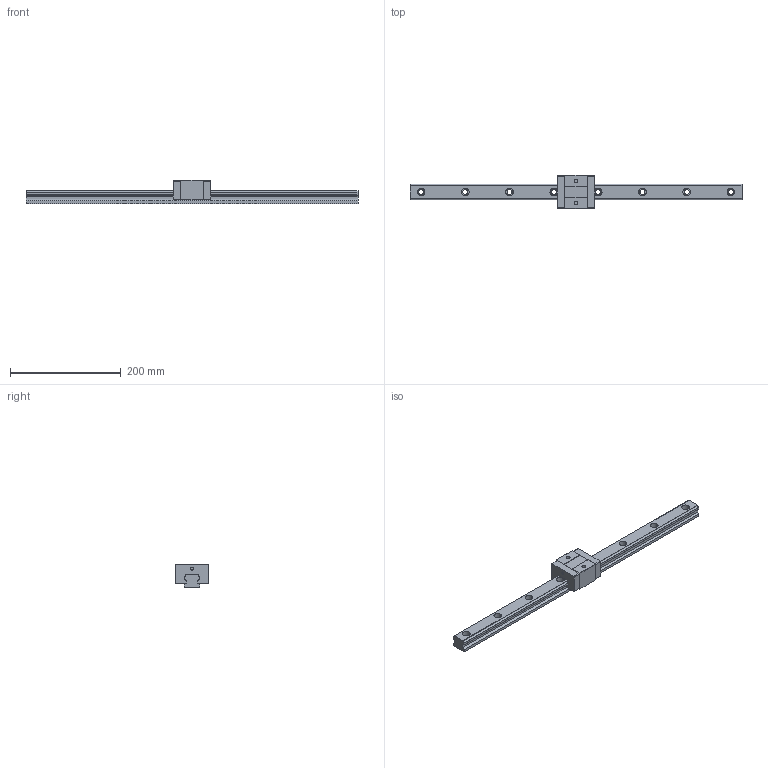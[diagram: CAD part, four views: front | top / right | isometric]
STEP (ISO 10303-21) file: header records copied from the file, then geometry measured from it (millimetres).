
FILE_DESCRIPTION (( 'STEP AP203' ), '1' );
FILE_NAME ('TRS30VS-XN-§ï.STEP', '2023-08-31T07:33:34', ( '' ), ( '' ), 'SwSTEP 2.0', 'SolidWorks 2022', '' );
FILE_SCHEMA (( 'CONFIG_CONTROL_DESIGN' ));
Length unit declared in the file: millimetre
Products named in the file (1): TRS30VS-XN-改
Bounding box: 600 x 60 x 42 mm (x, y, z)
Volume: 434547.8 mm3; surface area: 85848 mm2
Topology: 1 solids, 1 shells, 158 faces, 436 edges, 288 vertices
Faces by surface type: plane 82, cylinder 76
Entity records: 5185 total; most frequent: DIRECTION 910, CARTESIAN_POINT 883, ORIENTED_EDGE 872, EDGE_CURVE 436, AXIS2_PLACEMENT_3D 315, VERTEX_POINT 288, LINE 280, VECTOR 280
